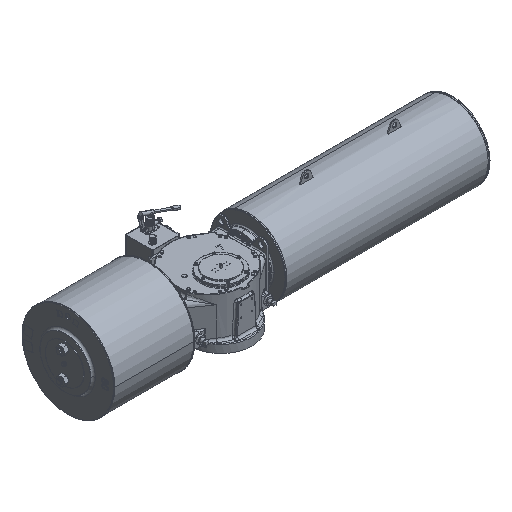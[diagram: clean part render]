
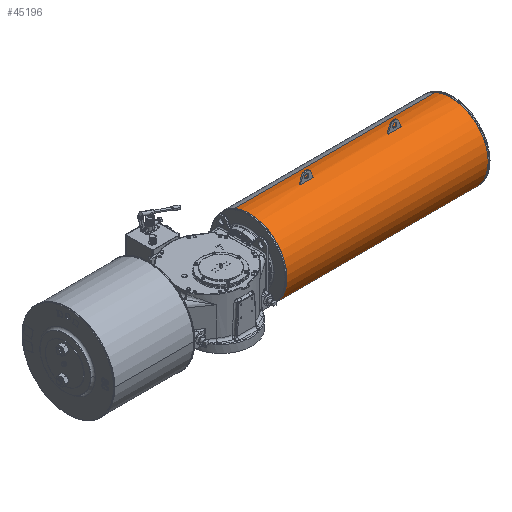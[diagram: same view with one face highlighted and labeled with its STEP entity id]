
A CAD part, isometric view. The second image highlights one B-rep face of the part: STEP entity #45196.
In plain terms, the highlighted cylindrical face has radius 340 mm (diameter 680 mm), a partial arc.
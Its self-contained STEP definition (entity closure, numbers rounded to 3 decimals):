
#1832 = EDGE_CURVE ( 'NONE', #125571, #136585, #120016, .T. ) ;
#3593 = ORIENTED_EDGE ( 'NONE', *, *, #14252, .F. ) ;
#3626 = CIRCLE ( 'NONE', #45694, 340. ) ;
#4503 = CIRCLE ( 'NONE', #135268, 340. ) ;
#4700 = ORIENTED_EDGE ( 'NONE', *, *, #130535, .T. ) ;
#5236 = FACE_OUTER_BOUND ( 'NONE', #92486, .T. ) ;
#5280 = VERTEX_POINT ( 'NONE', #27105 ) ;
#5709 = CARTESIAN_POINT ( 'NONE',  ( 2298., 198., 507.963 ) ) ;
#6740 = CARTESIAN_POINT ( 'NONE',  ( 918., 198., 507.963 ) ) ;
#7050 = DIRECTION ( 'NONE',  ( -1., 0., 0. ) ) ;
#8080 = EDGE_CURVE ( 'NONE', #91006, #138680, #56792, .T. ) ;
#11244 = ORIENTED_EDGE ( 'NONE', *, *, #20261, .F. ) ;
#12374 = DIRECTION ( 'NONE',  ( -1., 0., 0. ) ) ;
#13653 = DIRECTION ( 'NONE',  ( 0., 0., -1. ) ) ;
#14252 = EDGE_CURVE ( 'NONE', #37744, #91006, #136434, .T. ) ;
#16847 = CARTESIAN_POINT ( 'NONE',  ( 918., 203., 168. ) ) ;
#16938 = DIRECTION ( 'NONE',  ( 0., -0.402, -0.916 ) ) ;
#20261 = EDGE_CURVE ( 'NONE', #58711, #91381, #112318, .T. ) ;
#20875 = AXIS2_PLACEMENT_3D ( 'NONE', #16847, #69021, #58794 ) ;
#22079 = ORIENTED_EDGE ( 'NONE', *, *, #113165, .F. ) ;
#22085 = CARTESIAN_POINT ( 'NONE',  ( 1038., 203., 168. ) ) ;
#22501 = LINE ( 'NONE', #68570, #109196 ) ;
#25013 = DIRECTION ( 'NONE',  ( -1., 0., 0. ) ) ;
#25575 = CIRCLE ( 'NONE', #20875, 340. ) ;
#26373 = AXIS2_PLACEMENT_3D ( 'NONE', #80254, #113859, #13653 ) ;
#27026 = VERTEX_POINT ( 'NONE', #93270 ) ;
#27105 = CARTESIAN_POINT ( 'NONE',  ( 462.615, 339.661, 479.326 ) ) ;
#27455 = EDGE_LOOP ( 'NONE', ( #11244, #116272, #28742, #27675, #44955, #117448 ) ) ;
#27645 = LINE ( 'NONE', #5709, #141353 ) ;
#27675 = ORIENTED_EDGE ( 'NONE', *, *, #124420, .F. ) ;
#28742 = ORIENTED_EDGE ( 'NONE', *, *, #112162, .F. ) ;
#29532 = CARTESIAN_POINT ( 'NONE',  ( 1838., 203., 168. ) ) ;
#31195 = CARTESIAN_POINT ( 'NONE',  ( 1838., 203., 168. ) ) ;
#33239 = DIRECTION ( 'NONE',  ( 1., 0., 0. ) ) ;
#34391 = DIRECTION ( 'NONE',  ( 1., 0., 0. ) ) ;
#35269 = CARTESIAN_POINT ( 'NONE',  ( 1038., 208., 507.963 ) ) ;
#35578 = CARTESIAN_POINT ( 'NONE',  ( 1718., 198., 507.963 ) ) ;
#37744 = VERTEX_POINT ( 'NONE', #96406 ) ;
#38402 = VERTEX_POINT ( 'NONE', #127754 ) ;
#39052 = CARTESIAN_POINT ( 'NONE',  ( 1838., 208., 507.963 ) ) ;
#40786 = AXIS2_PLACEMENT_3D ( 'NONE', #119725, #56094, #100629 ) ;
#41820 = DIRECTION ( 'NONE',  ( 0., 0.402, 0.916 ) ) ;
#43319 = DIRECTION ( 'NONE',  ( -1., 0., 0. ) ) ;
#44189 = CARTESIAN_POINT ( 'NONE',  ( 2298., 198., 507.963 ) ) ;
#44881 = ORIENTED_EDGE ( 'NONE', *, *, #46119, .F. ) ;
#44955 = ORIENTED_EDGE ( 'NONE', *, *, #61720, .F. ) ;
#45196 = ADVANCED_FACE ( 'NONE', ( #80602, #50595, #5236 ), #72523, .T. ) ;
#45694 = AXIS2_PLACEMENT_3D ( 'NONE', #22085, #43319, #142727 ) ;
#46119 = EDGE_CURVE ( 'NONE', #116738, #98082, #73294, .T. ) ;
#46455 = AXIS2_PLACEMENT_3D ( 'NONE', #49883, #25013, #16938 ) ;
#48319 = VERTEX_POINT ( 'NONE', #75031 ) ;
#49308 = AXIS2_PLACEMENT_3D ( 'NONE', #67699, #111572, #123960 ) ;
#49883 = CARTESIAN_POINT ( 'NONE',  ( 2298., 203., 168. ) ) ;
#49974 = VECTOR ( 'NONE', #12374, 1000. ) ;
#50595 = FACE_BOUND ( 'NONE', #27455, .T. ) ;
#55159 = EDGE_CURVE ( 'NONE', #27026, #91381, #22501, .T. ) ;
#56094 = DIRECTION ( 'NONE',  ( 1., 0., 0. ) ) ;
#56792 = CIRCLE ( 'NONE', #26373, 340. ) ;
#58120 = VECTOR ( 'NONE', #33239, 1000. ) ;
#58711 = VERTEX_POINT ( 'NONE', #96576 ) ;
#58794 = DIRECTION ( 'NONE',  ( 0., 1., 0. ) ) ;
#59927 = CIRCLE ( 'NONE', #139286, 340. ) ;
#61074 = CIRCLE ( 'NONE', #98383, 340. ) ;
#61615 = DIRECTION ( 'NONE',  ( -1., 0., 0. ) ) ;
#61720 = EDGE_CURVE ( 'NONE', #27026, #38402, #61074, .T. ) ;
#63297 = DIRECTION ( 'NONE',  ( 1., 0., 0. ) ) ;
#65196 = CARTESIAN_POINT ( 'NONE',  ( 1838., 198., 507.963 ) ) ;
#65530 = CARTESIAN_POINT ( 'NONE',  ( 1838., 203., 508. ) ) ;
#66942 = ORIENTED_EDGE ( 'NONE', *, *, #67766, .T. ) ;
#67112 = DIRECTION ( 'NONE',  ( 1., 0., 0. ) ) ;
#67699 = CARTESIAN_POINT ( 'NONE',  ( 1038., 203., 168. ) ) ;
#67766 = EDGE_CURVE ( 'NONE', #72704, #138680, #27645, .T. ) ;
#68570 = CARTESIAN_POINT ( 'NONE',  ( 2298., 208., 507.963 ) ) ;
#69021 = DIRECTION ( 'NONE',  ( 1., 0., 0. ) ) ;
#70849 = DIRECTION ( 'NONE',  ( -1., 0., 0. ) ) ;
#72523 = CYLINDRICAL_SURFACE ( 'NONE', #46455, 340. ) ;
#72704 = VERTEX_POINT ( 'NONE', #65196 ) ;
#73294 = LINE ( 'NONE', #94474, #119090 ) ;
#73426 = DIRECTION ( 'NONE',  ( -1., 0., 0. ) ) ;
#74104 = AXIS2_PLACEMENT_3D ( 'NONE', #96693, #141958, #41820 ) ;
#74978 = DIRECTION ( 'NONE',  ( 0., 0.402, 0.916 ) ) ;
#75031 = CARTESIAN_POINT ( 'NONE',  ( 2293.385, 339.661, 479.326 ) ) ;
#75566 = DIRECTION ( 'NONE',  ( 0., -1., 0. ) ) ;
#77551 = CARTESIAN_POINT ( 'NONE',  ( 918., 203., 168. ) ) ;
#77868 = CARTESIAN_POINT ( 'NONE',  ( 2298., 339.661, 479.326 ) ) ;
#78968 = DIRECTION ( 'NONE',  ( 0., 1., 0. ) ) ;
#79567 = ORIENTED_EDGE ( 'NONE', *, *, #8080, .F. ) ;
#80118 = EDGE_CURVE ( 'NONE', #116738, #48319, #99735, .T. ) ;
#80254 = CARTESIAN_POINT ( 'NONE',  ( 1718., 203., 168. ) ) ;
#80602 = FACE_BOUND ( 'NONE', #129635, .T. ) ;
#87619 = CARTESIAN_POINT ( 'NONE',  ( 462.615, 66.339, -143.326 ) ) ;
#88674 = VERTEX_POINT ( 'NONE', #142448 ) ;
#89664 = ORIENTED_EDGE ( 'NONE', *, *, #107797, .T. ) ;
#91006 = VERTEX_POINT ( 'NONE', #94611 ) ;
#91381 = VERTEX_POINT ( 'NONE', #35269 ) ;
#92486 = EDGE_LOOP ( 'NONE', ( #109903, #4700, #89664, #44881 ) ) ;
#93270 = CARTESIAN_POINT ( 'NONE',  ( 918., 208., 507.963 ) ) ;
#94474 = CARTESIAN_POINT ( 'NONE',  ( 2298., 66.339, -143.326 ) ) ;
#94611 = CARTESIAN_POINT ( 'NONE',  ( 1718., 203., 508. ) ) ;
#96406 = CARTESIAN_POINT ( 'NONE',  ( 1718., 208., 507.963 ) ) ;
#96576 = CARTESIAN_POINT ( 'NONE',  ( 1038., 203., 508. ) ) ;
#96693 = CARTESIAN_POINT ( 'NONE',  ( 2293.385, 203., 168. ) ) ;
#98082 = VERTEX_POINT ( 'NONE', #87619 ) ;
#98361 = DIRECTION ( 'NONE',  ( -1., 0., 0. ) ) ;
#98383 = AXIS2_PLACEMENT_3D ( 'NONE', #77551, #34391, #78968 ) ;
#98733 = LINE ( 'NONE', #132318, #49974 ) ;
#99147 = DIRECTION ( 'NONE',  ( 0., -1., 0. ) ) ;
#99735 = CIRCLE ( 'NONE', #74104, 340. ) ;
#100629 = DIRECTION ( 'NONE',  ( 0., 0., -1. ) ) ;
#107096 = ORIENTED_EDGE ( 'NONE', *, *, #1832, .F. ) ;
#107797 = EDGE_CURVE ( 'NONE', #5280, #98082, #59927, .T. ) ;
#109196 = VECTOR ( 'NONE', #67112, 1000. ) ;
#109903 = ORIENTED_EDGE ( 'NONE', *, *, #80118, .T. ) ;
#111476 = ORIENTED_EDGE ( 'NONE', *, *, #117575, .F. ) ;
#111572 = DIRECTION ( 'NONE',  ( -1., 0., 0. ) ) ;
#112162 = EDGE_CURVE ( 'NONE', #133687, #88674, #144308, .T. ) ;
#112318 = CIRCLE ( 'NONE', #49308, 340. ) ;
#113165 = EDGE_CURVE ( 'NONE', #72704, #125571, #4503, .T. ) ;
#113859 = DIRECTION ( 'NONE',  ( 1., 0., 0. ) ) ;
#116272 = ORIENTED_EDGE ( 'NONE', *, *, #119769, .F. ) ;
#116738 = VERTEX_POINT ( 'NONE', #131957 ) ;
#117448 = ORIENTED_EDGE ( 'NONE', *, *, #55159, .T. ) ;
#117575 = EDGE_CURVE ( 'NONE', #136585, #37744, #98733, .T. ) ;
#118825 = CARTESIAN_POINT ( 'NONE',  ( 462.615, 203., 168. ) ) ;
#119090 = VECTOR ( 'NONE', #61615, 1000. ) ;
#119725 = CARTESIAN_POINT ( 'NONE',  ( 1718., 203., 168. ) ) ;
#119769 = EDGE_CURVE ( 'NONE', #88674, #58711, #3626, .T. ) ;
#120016 = CIRCLE ( 'NONE', #141087, 340. ) ;
#123960 = DIRECTION ( 'NONE',  ( 0., 0., 1. ) ) ;
#124420 = EDGE_CURVE ( 'NONE', #38402, #133687, #25575, .T. ) ;
#125571 = VERTEX_POINT ( 'NONE', #65530 ) ;
#127754 = CARTESIAN_POINT ( 'NONE',  ( 918., 203., 508. ) ) ;
#129635 = EDGE_LOOP ( 'NONE', ( #22079, #66942, #79567, #3593, #111476, #107096 ) ) ;
#130535 = EDGE_CURVE ( 'NONE', #48319, #5280, #132664, .T. ) ;
#131957 = CARTESIAN_POINT ( 'NONE',  ( 2293.385, 66.339, -143.326 ) ) ;
#132318 = CARTESIAN_POINT ( 'NONE',  ( 2298., 208., 507.963 ) ) ;
#132664 = LINE ( 'NONE', #77868, #140662 ) ;
#133687 = VERTEX_POINT ( 'NONE', #6740 ) ;
#135268 = AXIS2_PLACEMENT_3D ( 'NONE', #29532, #73426, #75566 ) ;
#136434 = CIRCLE ( 'NONE', #40786, 340. ) ;
#136585 = VERTEX_POINT ( 'NONE', #39052 ) ;
#138680 = VERTEX_POINT ( 'NONE', #35578 ) ;
#139286 = AXIS2_PLACEMENT_3D ( 'NONE', #118825, #63297, #74978 ) ;
#140662 = VECTOR ( 'NONE', #98361, 1000. ) ;
#141087 = AXIS2_PLACEMENT_3D ( 'NONE', #31195, #7050, #99147 ) ;
#141353 = VECTOR ( 'NONE', #70849, 1000. ) ;
#141958 = DIRECTION ( 'NONE',  ( -1., 0., 0. ) ) ;
#142448 = CARTESIAN_POINT ( 'NONE',  ( 1038., 198., 507.963 ) ) ;
#142727 = DIRECTION ( 'NONE',  ( 0., 0., 1. ) ) ;
#144308 = LINE ( 'NONE', #44189, #58120 ) ;
